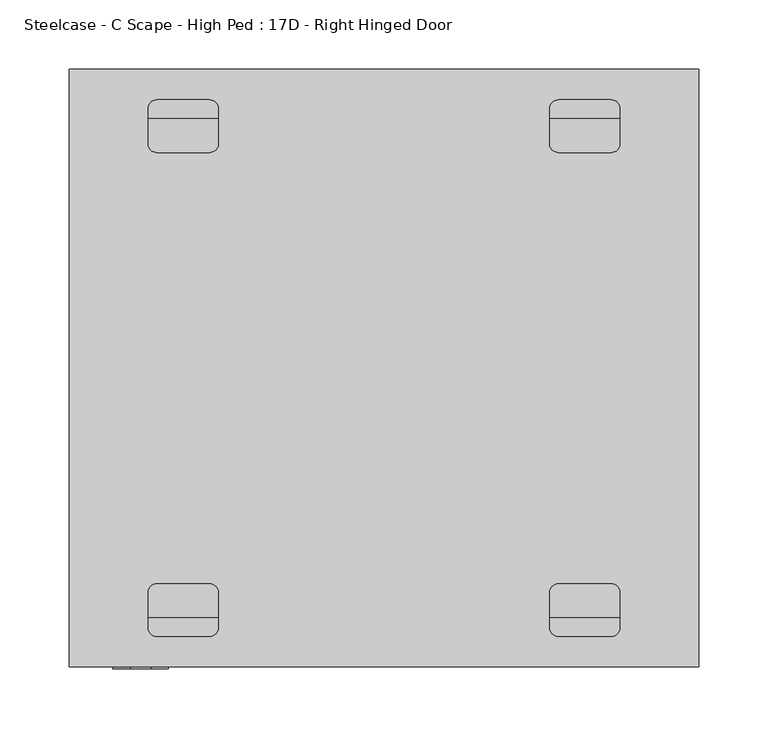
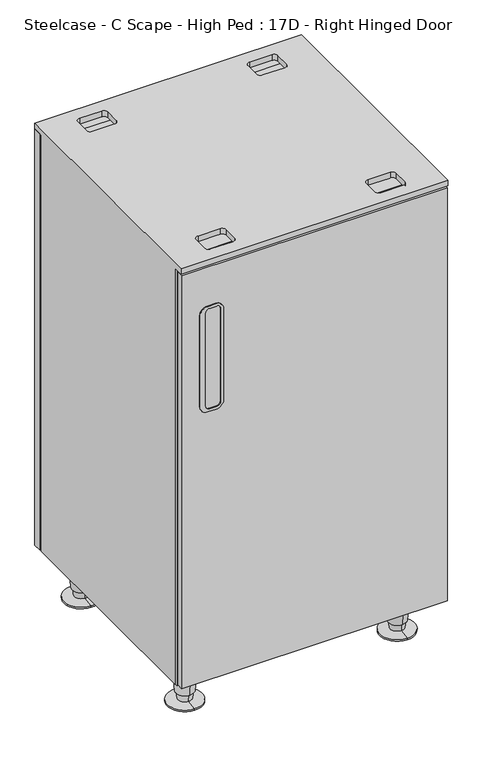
"""IFC4 building model written with IfcOpenShell, lengths in millimetres: furniture geometry, Steelcase - C Scape - High Ped : 17D - Right Hinged Door."""

from ifc_helpers import new_model, si_unit, point, frame, frame_2d, origin, place, context, project, spatial, polyline, circle_curve, trimmed, segment, composite_curve, outline, extrude, faceted_brep, source, transform, mapped, element, save
from ifc_brep_helpers import plane_surface, cylinder_surface, revolved_surface, advanced_brep


def steelcase_c_scape_high_ped_17d_right_hinged_door_e19e001e(model_context):
    return source(origin(), model_context, "Body", "SolidModel", [
        extrude(outline(polyline([(455.295, 0.0), (455.295, -13.8429225), (445.1174429, -13.8429225), (433.069569, -21.0820155), (21.5898062, -21.0820155), (9.5419322, -13.8429225), (-0.635, -13.8429225), (-0.635, 0.0), (455.295, 0.0)])), frame((0.0, 0.0, 76.2), z_axis=(0.0, 0.0, 1.0), x_axis=(1.0, 0.0, 0.0)), (0.0, 0.0, 1.0), 751.84),
        extrude(outline(composite_curve([segment(polyline([(577.2149855, 71.1199225), (742.3150339, 71.1199225)]), True, "CONTINUOUS"), segment(trimmed(circle_curve(frame_2d((742.3150339, 58.4199225)), 12.7), [point((742.3150339, 71.1199225))], [point((755.0150339, 58.4199225))], False, "CARTESIAN"), True, "CONTINUOUS"), segment(polyline([(755.0150339, 58.4199225), (755.0150339, 43.8153876)]), True, "CONTINUOUS"), segment(trimmed(circle_curve(frame_2d((742.3150339, 43.8153876)), 12.7), [point((755.0150339, 43.8153876))], [point((742.3150339, 31.1153876))], False, "CARTESIAN"), True, "CONTINUOUS"), segment(polyline([(742.3150339, 31.1153876), (577.2149855, 31.1153876)]), True, "CONTINUOUS"), segment(trimmed(circle_curve(frame_2d((577.2149855, 43.8153876)), 12.7), [point((577.2149855, 31.1153876))], [point((564.5149855, 43.8153876))], False, "CARTESIAN"), True, "CONTINUOUS"), segment(polyline([(564.5149855, 43.8153876), (564.5149855, 58.4199225)]), True, "CONTINUOUS"), segment(trimmed(circle_curve(frame_2d((577.2149855, 58.4199225)), 12.7), [point((564.5149855, 58.4199225))], [point((577.2149855, 71.1199225))], False, "CARTESIAN"), True, "CONTINUOUS")], self_intersect=False), holes=[composite_curve([segment(polyline([(575.690999, 40.8938605), (743.8390203, 40.8938605)]), True, "CONTINUOUS"), segment(trimmed(circle_curve(frame_2d((743.8390203, 47.2438605)), 6.35), [point((743.8390203, 40.8938605))], [point((750.1890203, 47.2438605))], True, "CARTESIAN"), True, "CONTINUOUS"), segment(polyline([(750.1890203, 47.2438605), (750.1890203, 59.9440543)]), True, "CONTINUOUS"), segment(trimmed(circle_curve(frame_2d((743.8390203, 59.9440543)), 6.35), [point((750.1890203, 59.9440543))], [point((743.8390203, 66.2940543))], True, "CARTESIAN"), True, "CONTINUOUS"), segment(polyline([(743.8390203, 66.2940543), (575.690999, 66.2940543)]), True, "CONTINUOUS"), segment(trimmed(circle_curve(frame_2d((575.690999, 59.9440543)), 6.35), [point((575.690999, 66.2940543))], [point((569.340999, 59.9440543))], True, "CARTESIAN"), True, "CONTINUOUS"), segment(polyline([(569.340999, 59.9440543), (569.340999, 47.2438605)]), True, "CONTINUOUS"), segment(trimmed(circle_curve(frame_2d((575.690999, 47.2438605)), 6.35), [point((569.340999, 47.2438605))], [point((575.690999, 40.8938605))], True, "CARTESIAN"), True, "CONTINUOUS")], self_intersect=False)]), frame((0.0, -434.340126, 0.0), z_axis=(0.0, 1.0, 0.0), x_axis=(0.0, 0.0, 1.0)), (0.0, 0.0, 1.0), 1.270126),
        extrude(outline(polyline([(0.3980765, -433.07), (0.3980765, -422.5289283), (454.5331473, -422.5289283), (454.5331473, -433.07), (0.3980765, -433.07)])), frame((0.0, 0.0, 79.374997), z_axis=(0.0, 0.0, 1.0), x_axis=(1.0, 0.0, 0.0)), (0.0, 0.0, 1.0), 745.4899885),
        extrude(outline(polyline([(11.5822775, -415.036), (11.5822775, -397.2560233), (21.5898062, -397.2560233), (21.5898062, -412.2419845), (9.5419322, -419.4810775), (0.3980765, -419.4810775), (0.3980765, -415.036), (11.5822775, -415.036)])), frame((0.0, 0.0, 76.2), z_axis=(0.0, 0.0, 1.0), x_axis=(1.0, 0.0, 0.0)), (0.0, 0.0, 1.0), 751.84),
        extrude(outline(polyline([(443.0776, -415.036), (454.2616522, -415.036), (454.2616522, -419.4810775), (445.1174429, -419.4810775), (433.07, -412.2422435), (433.07, -397.2560233), (443.0776, -397.2560233), (443.0776, -415.036)])), frame((0.0, 0.0, 76.2), z_axis=(0.0, 0.0, 1.0), x_axis=(1.0, 0.0, 0.0)), (0.0, 0.0, 1.0), 751.84),
        advanced_brep(
        [(408.94, -393.3610306, 0.0), (408.94, -334.1355906, 0.0), (408.94, -363.7483106, 0.0), (408.94, -393.3610306, 2.6912335), (408.94, -334.1355906, 2.6912335), (408.94, -375.7058983, 5.8043097), (408.94, -351.7907229, 5.8043097), (408.94, -376.4000755, 19.05), (408.94, -351.0965457, 19.05), (408.94, -379.1261713, 19.05), (408.94, -348.3704499, 19.05), (408.94, -383.1224886, 76.2), (408.94, -344.3741326, 76.2), (408.94, -363.7483106, 76.2)],
        [
            (0, 1, circle_curve(frame((408.94, -363.7483106, 0.0), z_axis=(0.0, 0.0, -1.0), x_axis=(0.0, 1.0, 0.0)), 29.61272)),
            (1, 2),
            (2, 0),
            (1, 0, circle_curve(frame((408.94, -363.7483106, 0.0), z_axis=(0.0, 0.0, -1.0), x_axis=(0.0, 1.0, 0.0)), 29.61272)),
            (3, 4, circle_curve(frame((408.94, -363.7483106, 2.6912335), z_axis=(0.0, 0.0, -1.0), x_axis=(0.0, 1.0, 0.0)), 29.61272)),
            (4, 1),
            (0, 3),
            (4, 3, circle_curve(frame((408.94, -363.7483106, 2.6912335), z_axis=(0.0, 0.0, -1.0), x_axis=(0.0, 1.0, 0.0)), 29.61272)),
            (5, 6, circle_curve(frame((408.94, -363.7483106, 5.8043097), z_axis=(0.0, 0.0, -1.0), x_axis=(0.0, 1.0, 0.0)), 11.9575877)),
            (6, 4),
            (3, 5),
            (6, 5, circle_curve(frame((408.94, -363.7483106, 5.8043097), z_axis=(0.0, 0.0, -1.0), x_axis=(0.0, 1.0, 0.0)), 11.9575877)),
            (7, 8, circle_curve(frame((408.94, -363.7483106, 19.05), z_axis=(0.0, 0.0, -1.0), x_axis=(0.0, 1.0, 0.0)), 12.6517649)),
            (8, 6),
            (5, 7),
            (8, 7, circle_curve(frame((408.94, -363.7483106, 19.05), z_axis=(0.0, 0.0, -1.0), x_axis=(0.0, 1.0, 0.0)), 12.6517649)),
            (9, 10, circle_curve(frame((408.94, -363.7483106, 19.05), z_axis=(0.0, 0.0, -1.0), x_axis=(0.0, 1.0, 0.0)), 15.3778607)),
            (10, 8),
            (7, 9),
            (10, 9, circle_curve(frame((408.94, -363.7483106, 19.05), z_axis=(0.0, 0.0, -1.0), x_axis=(0.0, 1.0, 0.0)), 15.3778607)),
            (11, 12, circle_curve(frame((408.94, -363.7483106, 76.2), z_axis=(0.0, 0.0, -1.0), x_axis=(0.0, 1.0, 0.0)), 19.374178)),
            (12, 10),
            (9, 11),
            (12, 11, circle_curve(frame((408.94, -363.7483106, 76.2), z_axis=(0.0, 0.0, -1.0), x_axis=(0.0, 1.0, 0.0)), 19.374178)),
            (13, 12),
            (11, 13),
        ],
        [
            plane_surface(frame((408.94, -363.7483106, 0.0), z_axis=(0.0, 0.0, -1.0), x_axis=(0.0, 1.0, 0.0))),
            cylinder_surface(frame((408.94, -363.7483106, -7.7422201), z_axis=(0.0, 0.0, 1.0), x_axis=(0.0, 1.0, 0.0)), 29.61272),
            revolved_surface(polyline([(408.94, -334.1355906, 2.6912335), (408.94, -351.7907229, 5.8043097)]), (408.94, -363.7483106, -7.7422201), (0.0, 0.0, 1.0)),
            revolved_surface(polyline([(408.94, -351.7907229, 5.8043097), (408.94, -351.0965457, 19.05)]), (408.94, -363.7483106, -7.7422201), (0.0, 0.0, 1.0)),
            plane_surface(frame((408.94, -363.7483106, 19.05), z_axis=(0.0, 0.0, -1.0), x_axis=(0.0, 1.0, 0.0))),
            revolved_surface(polyline([(408.94, -348.3704499, 19.05), (408.94, -344.3741326, 76.2)]), (408.94, -363.7483106, -7.7422201), (0.0, 0.0, 1.0)),
            plane_surface(frame((408.94, -363.7483106, 76.2), z_axis=(0.0, 0.0, 1.0), x_axis=(0.0, 1.0, 0.0))),
        ],
        [
            (0, [[1, 2, 3]]),
            (0, [[4, -3, -2]]),
            (1, [[5, 6, -1, 7]]),
            (1, [[8, -7, -4, -6]]),
            (2, [[9, 10, -5, 11]]),
            (2, [[12, -11, -8, -10]]),
            (3, [[13, 14, -9, 15]]),
            (3, [[16, -15, -12, -14]]),
            (4, [[17, 18, -13, 19]]),
            (4, [[20, -19, -16, -18]]),
            (5, [[21, 22, -17, 23]]),
            (5, [[24, -23, -20, -22]]),
            (6, [[25, -21, 26]]),
            (6, [[-26, -24, -25]]),
        ],
    ),
        advanced_brep(
        [(408.94, -37.8824339, 76.2), (408.94, -76.6307898, 76.2), (408.94, -57.2566119, 76.2), (408.94, -41.8787512, 19.05), (408.94, -72.6344725, 19.05), (408.94, -44.6048469, 19.05), (408.94, -69.9083768, 19.05), (408.94, -45.2990242, 5.8043097), (408.94, -69.2141995, 5.8043097), (408.94, -27.6438918, 2.6912335), (408.94, -86.8693319, 2.6912335), (408.94, -27.6438918, 0.0), (408.94, -86.8693319, 0.0), (408.94, -57.2566119, 0.0)],
        [
            (0, 1, circle_curve(frame((408.94, -57.2566119, 76.2), z_axis=(0.0, 0.0, 1.0), x_axis=(0.0, -1.0, 0.0)), 19.374178)),
            (1, 2),
            (2, 0),
            (1, 0, circle_curve(frame((408.94, -57.2566119, 76.2), z_axis=(0.0, 0.0, 1.0), x_axis=(0.0, -1.0, 0.0)), 19.374178)),
            (3, 4, circle_curve(frame((408.94, -57.2566119, 19.05), z_axis=(0.0, 0.0, 1.0), x_axis=(0.0, -1.0, 0.0)), 15.3778607)),
            (4, 1),
            (0, 3),
            (4, 3, circle_curve(frame((408.94, -57.2566119, 19.05), z_axis=(0.0, 0.0, 1.0), x_axis=(0.0, -1.0, 0.0)), 15.3778607)),
            (5, 6, circle_curve(frame((408.94, -57.2566119, 19.05), z_axis=(0.0, 0.0, 1.0), x_axis=(0.0, -1.0, 0.0)), 12.6517649)),
            (6, 4),
            (3, 5),
            (6, 5, circle_curve(frame((408.94, -57.2566119, 19.05), z_axis=(0.0, 0.0, 1.0), x_axis=(0.0, -1.0, 0.0)), 12.6517649)),
            (7, 8, circle_curve(frame((408.94, -57.2566119, 5.8043097), z_axis=(0.0, 0.0, 1.0), x_axis=(0.0, -1.0, 0.0)), 11.9575877)),
            (8, 6),
            (5, 7),
            (8, 7, circle_curve(frame((408.94, -57.2566119, 5.8043097), z_axis=(0.0, 0.0, 1.0), x_axis=(0.0, -1.0, 0.0)), 11.9575877)),
            (9, 10, circle_curve(frame((408.94, -57.2566119, 2.6912335), z_axis=(0.0, 0.0, 1.0), x_axis=(0.0, -1.0, 0.0)), 29.61272)),
            (10, 8),
            (7, 9),
            (10, 9, circle_curve(frame((408.94, -57.2566119, 2.6912335), z_axis=(0.0, 0.0, 1.0), x_axis=(0.0, -1.0, 0.0)), 29.61272)),
            (11, 12, circle_curve(frame((408.94, -57.2566119, 0.0), z_axis=(0.0, 0.0, 1.0), x_axis=(0.0, -1.0, 0.0)), 29.61272)),
            (12, 10),
            (9, 11),
            (12, 11, circle_curve(frame((408.94, -57.2566119, 0.0), z_axis=(0.0, 0.0, 1.0), x_axis=(0.0, -1.0, 0.0)), 29.61272)),
            (13, 12),
            (11, 13),
        ],
        [
            plane_surface(frame((408.94, -57.2566119, 76.2), z_axis=(0.0, 0.0, 1.0), x_axis=(0.0, -1.0, 0.0))),
            revolved_surface(polyline([(408.94, -76.6307898, 76.2), (408.94, -72.6344725, 19.05)]), (408.94, -57.2566119, -7.7422201), (0.0, 0.0, -1.0)),
            plane_surface(frame((408.94, -57.2566119, 19.05), z_axis=(0.0, 0.0, -1.0), x_axis=(0.0, -1.0, 0.0))),
            revolved_surface(polyline([(408.94, -69.9083768, 19.05), (408.94, -69.2141995, 5.8043097)]), (408.94, -57.2566119, -7.7422201), (0.0, 0.0, -1.0)),
            revolved_surface(polyline([(408.94, -69.2141995, 5.8043097), (408.94, -86.8693319, 2.6912335)]), (408.94, -57.2566119, -7.7422201), (0.0, 0.0, -1.0)),
            cylinder_surface(frame((408.94, -57.2566119, -7.7422201), z_axis=(0.0, 0.0, -1.0), x_axis=(0.0, -1.0, 0.0)), 29.61272),
            plane_surface(frame((408.94, -57.2566119, 0.0), z_axis=(0.0, 0.0, -1.0), x_axis=(0.0, -1.0, 0.0))),
        ],
        [
            (0, [[1, 2, 3]]),
            (0, [[4, -3, -2]]),
            (1, [[5, 6, -1, 7]]),
            (1, [[8, -7, -4, -6]]),
            (2, [[9, 10, -5, 11]]),
            (2, [[12, -11, -8, -10]]),
            (3, [[13, 14, -9, 15]]),
            (3, [[16, -15, -12, -14]]),
            (4, [[17, 18, -13, 19]]),
            (4, [[20, -19, -16, -18]]),
            (5, [[21, 22, -17, 23]]),
            (5, [[24, -23, -20, -22]]),
            (6, [[25, -21, 26]]),
            (6, [[-26, -24, -25]]),
        ],
    ),
        advanced_brep(
        [(45.7198062, -383.1224886, 76.2), (45.7198062, -344.3741326, 76.2), (45.7198062, -363.7483106, 76.2), (45.7198062, -379.1261713, 19.05), (45.7198062, -348.3704499, 19.05), (45.7198062, -376.4000755, 19.05), (45.7198062, -351.0965457, 19.05), (45.7198062, -375.7058983, 5.8043097), (45.7198062, -351.7907229, 5.8043097), (45.7198062, -393.3610306, 2.6912335), (45.7198062, -334.1355906, 2.6912335), (45.7198062, -393.3610306, 0.0), (45.7198062, -334.1355906, 0.0), (45.7198062, -363.7483106, 0.0)],
        [
            (0, 1, circle_curve(frame((45.7198062, -363.7483106, 76.2), z_axis=(0.0, 0.0, 1.0), x_axis=(0.0, 1.0, 0.0)), 19.374178)),
            (1, 2),
            (2, 0),
            (1, 0, circle_curve(frame((45.7198062, -363.7483106, 76.2), z_axis=(0.0, 0.0, 1.0), x_axis=(0.0, 1.0, 0.0)), 19.374178)),
            (3, 4, circle_curve(frame((45.7198062, -363.7483106, 19.05), z_axis=(0.0, 0.0, 1.0), x_axis=(0.0, 1.0, 0.0)), 15.3778607)),
            (4, 1),
            (0, 3),
            (4, 3, circle_curve(frame((45.7198062, -363.7483106, 19.05), z_axis=(0.0, 0.0, 1.0), x_axis=(0.0, 1.0, 0.0)), 15.3778607)),
            (5, 6, circle_curve(frame((45.7198062, -363.7483106, 19.05), z_axis=(0.0, 0.0, 1.0), x_axis=(0.0, 1.0, 0.0)), 12.6517649)),
            (6, 4),
            (3, 5),
            (6, 5, circle_curve(frame((45.7198062, -363.7483106, 19.05), z_axis=(0.0, 0.0, 1.0), x_axis=(0.0, 1.0, 0.0)), 12.6517649)),
            (7, 8, circle_curve(frame((45.7198062, -363.7483106, 5.8043097), z_axis=(0.0, 0.0, 1.0), x_axis=(0.0, 1.0, 0.0)), 11.9575877)),
            (8, 6),
            (5, 7),
            (8, 7, circle_curve(frame((45.7198062, -363.7483106, 5.8043097), z_axis=(0.0, 0.0, 1.0), x_axis=(0.0, 1.0, 0.0)), 11.9575877)),
            (9, 10, circle_curve(frame((45.7198062, -363.7483106, 2.6912335), z_axis=(0.0, 0.0, 1.0), x_axis=(0.0, 1.0, 0.0)), 29.61272)),
            (10, 8),
            (7, 9),
            (10, 9, circle_curve(frame((45.7198062, -363.7483106, 2.6912335), z_axis=(0.0, 0.0, 1.0), x_axis=(0.0, 1.0, 0.0)), 29.61272)),
            (11, 12, circle_curve(frame((45.7198062, -363.7483106, 0.0), z_axis=(0.0, 0.0, 1.0), x_axis=(0.0, 1.0, 0.0)), 29.61272)),
            (12, 10),
            (9, 11),
            (12, 11, circle_curve(frame((45.7198062, -363.7483106, 0.0), z_axis=(0.0, 0.0, 1.0), x_axis=(0.0, 1.0, 0.0)), 29.61272)),
            (13, 12),
            (11, 13),
        ],
        [
            plane_surface(frame((45.7198062, -363.7483106, 76.2), z_axis=(0.0, 0.0, 1.0), x_axis=(0.0, 1.0, 0.0))),
            revolved_surface(polyline([(45.7198062, -344.3741326, 76.2), (45.7198062, -348.3704499, 19.05)]), (45.7198062, -363.7483106, -7.7422201), (0.0, 0.0, -1.0)),
            plane_surface(frame((45.7198062, -363.7483106, 19.05), z_axis=(0.0, 0.0, -1.0), x_axis=(0.0, 1.0, 0.0))),
            revolved_surface(polyline([(45.7198062, -351.0965457, 19.05), (45.7198062, -351.7907229, 5.8043097)]), (45.7198062, -363.7483106, -7.7422201), (0.0, 0.0, -1.0)),
            revolved_surface(polyline([(45.7198062, -351.7907229, 5.8043097), (45.7198062, -334.1355906, 2.6912335)]), (45.7198062, -363.7483106, -7.7422201), (0.0, 0.0, -1.0)),
            cylinder_surface(frame((45.7198062, -363.7483106, -7.7422201), z_axis=(0.0, 0.0, -1.0), x_axis=(0.0, 1.0, 0.0)), 29.61272),
            plane_surface(frame((45.7198062, -363.7483106, 0.0), z_axis=(0.0, 0.0, -1.0), x_axis=(0.0, 1.0, 0.0))),
        ],
        [
            (0, [[1, 2, 3]]),
            (0, [[4, -3, -2]]),
            (1, [[5, 6, -1, 7]]),
            (1, [[8, -7, -4, -6]]),
            (2, [[9, 10, -5, 11]]),
            (2, [[12, -11, -8, -10]]),
            (3, [[13, 14, -9, 15]]),
            (3, [[16, -15, -12, -14]]),
            (4, [[17, 18, -13, 19]]),
            (4, [[20, -19, -16, -18]]),
            (5, [[21, 22, -17, 23]]),
            (5, [[24, -23, -20, -22]]),
            (6, [[25, -21, 26]]),
            (6, [[-26, -24, -25]]),
        ],
    ),
        advanced_brep(
        [(45.7198062, -27.6438918, 0.0), (45.7198062, -86.8693319, 0.0), (45.7198062, -57.2566119, 0.0), (45.7198062, -27.6438918, 2.6912335), (45.7198062, -86.8693319, 2.6912335), (45.7198062, -45.2990242, 5.8043097), (45.7198062, -69.2141995, 5.8043097), (45.7198062, -44.6048469, 19.05), (45.7198062, -69.9083768, 19.05), (45.7198062, -41.8787512, 19.05), (45.7198062, -72.6344725, 19.05), (45.7198062, -37.8824339, 76.2), (45.7198062, -76.6307898, 76.2), (45.7198062, -57.2566119, 76.2)],
        [
            (0, 1, circle_curve(frame((45.7198062, -57.2566119, 0.0), z_axis=(0.0, 0.0, -1.0), x_axis=(0.0, -1.0, 0.0)), 29.61272)),
            (1, 2),
            (2, 0),
            (1, 0, circle_curve(frame((45.7198062, -57.2566119, 0.0), z_axis=(0.0, 0.0, -1.0), x_axis=(0.0, -1.0, 0.0)), 29.61272)),
            (3, 4, circle_curve(frame((45.7198062, -57.2566119, 2.6912335), z_axis=(0.0, 0.0, -1.0), x_axis=(0.0, -1.0, 0.0)), 29.61272)),
            (4, 1),
            (0, 3),
            (4, 3, circle_curve(frame((45.7198062, -57.2566119, 2.6912335), z_axis=(0.0, 0.0, -1.0), x_axis=(0.0, -1.0, 0.0)), 29.61272)),
            (5, 6, circle_curve(frame((45.7198062, -57.2566119, 5.8043097), z_axis=(0.0, 0.0, -1.0), x_axis=(0.0, -1.0, 0.0)), 11.9575877)),
            (6, 4),
            (3, 5),
            (6, 5, circle_curve(frame((45.7198062, -57.2566119, 5.8043097), z_axis=(0.0, 0.0, -1.0), x_axis=(0.0, -1.0, 0.0)), 11.9575877)),
            (7, 8, circle_curve(frame((45.7198062, -57.2566119, 19.05), z_axis=(0.0, 0.0, -1.0), x_axis=(0.0, -1.0, 0.0)), 12.6517649)),
            (8, 6),
            (5, 7),
            (8, 7, circle_curve(frame((45.7198062, -57.2566119, 19.05), z_axis=(0.0, 0.0, -1.0), x_axis=(0.0, -1.0, 0.0)), 12.6517649)),
            (9, 10, circle_curve(frame((45.7198062, -57.2566119, 19.05), z_axis=(0.0, 0.0, -1.0), x_axis=(0.0, -1.0, 0.0)), 15.3778607)),
            (10, 8),
            (7, 9),
            (10, 9, circle_curve(frame((45.7198062, -57.2566119, 19.05), z_axis=(0.0, 0.0, -1.0), x_axis=(0.0, -1.0, 0.0)), 15.3778607)),
            (11, 12, circle_curve(frame((45.7198062, -57.2566119, 76.2), z_axis=(0.0, 0.0, -1.0), x_axis=(0.0, -1.0, 0.0)), 19.374178)),
            (12, 10),
            (9, 11),
            (12, 11, circle_curve(frame((45.7198062, -57.2566119, 76.2), z_axis=(0.0, 0.0, -1.0), x_axis=(0.0, -1.0, 0.0)), 19.374178)),
            (13, 12),
            (11, 13),
        ],
        [
            plane_surface(frame((45.7198062, -57.2566119, 0.0), z_axis=(0.0, 0.0, -1.0), x_axis=(0.0, -1.0, 0.0))),
            cylinder_surface(frame((45.7198062, -57.2566119, -7.7422201), z_axis=(0.0, 0.0, 1.0), x_axis=(0.0, -1.0, 0.0)), 29.61272),
            revolved_surface(polyline([(45.7198062, -86.8693319, 2.6912335), (45.7198062, -69.2141995, 5.8043097)]), (45.7198062, -57.2566119, -7.7422201), (0.0, 0.0, 1.0)),
            revolved_surface(polyline([(45.7198062, -69.2141995, 5.8043097), (45.7198062, -69.9083768, 19.05)]), (45.7198062, -57.2566119, -7.7422201), (0.0, 0.0, 1.0)),
            plane_surface(frame((45.7198062, -57.2566119, 19.05), z_axis=(0.0, 0.0, -1.0), x_axis=(0.0, -1.0, 0.0))),
            revolved_surface(polyline([(45.7198062, -72.6344725, 19.05), (45.7198062, -76.6307898, 76.2)]), (45.7198062, -57.2566119, -7.7422201), (0.0, 0.0, 1.0)),
            plane_surface(frame((45.7198062, -57.2566119, 76.2), z_axis=(0.0, 0.0, 1.0), x_axis=(0.0, -1.0, 0.0))),
        ],
        [
            (0, [[1, 2, 3]]),
            (0, [[4, -3, -2]]),
            (1, [[5, 6, -1, 7]]),
            (1, [[8, -7, -4, -6]]),
            (2, [[9, 10, -5, 11]]),
            (2, [[12, -11, -8, -10]]),
            (3, [[13, 14, -9, 15]]),
            (3, [[16, -15, -12, -14]]),
            (4, [[17, 18, -13, 19]]),
            (4, [[20, -19, -16, -18]]),
            (5, [[21, 22, -17, 23]]),
            (5, [[24, -23, -20, -22]]),
            (6, [[25, -21, 26]]),
            (6, [[-26, -24, -25]]),
        ],
    ),
        advanced_brep(
        [(-0.635, -433.07, 838.2), (-0.635, 0.0, 838.2), (-0.635, 0.0, 828.04), (-0.635, -18.288, 828.04), (-0.635, -18.288, 76.2), (-0.635, -415.036, 76.2), (-0.635, -415.036, 828.04), (-0.635, -433.07, 828.04), (455.295, -433.07, 838.2), (455.295, -433.07, 828.04), (455.295, -415.036, 828.04), (455.295, -415.036, 76.2), (455.295, -18.288, 76.2), (455.295, -18.288, 828.04), (455.295, 0.0, 828.04), (455.295, 0.0, 838.2), (21.5898062, -397.2560233, 92.7100024), (433.0701938, -397.2560233, 92.7100024), (433.0701938, -36.0679767, 92.7100024), (21.5898062, -36.0679767, 92.7100024), (443.0777225, -36.0679767, 828.04), (443.0777225, -36.0679767, 76.2), (11.5822775, -36.0679767, 76.2), (11.5822775, -36.0679767, 828.04), (56.5151938, -36.0679767, 828.04), (107.3148062, -36.0679767, 828.04), (347.3449225, -36.0679767, 828.04), (398.1445349, -36.0679767, 828.04), (433.0701938, -36.0679767, 441.604404), (21.5898062, -36.0679767, 441.604404), (21.5898062, -36.0679767, 457.2), (433.0701938, -36.0679767, 457.2), (433.0701938, -36.0679767, 811.5299709), (21.5898062, -36.0679767, 811.5299709), (11.5822775, -18.288, 76.2), (443.0777225, -18.288, 76.2), (443.0777225, -415.036, 76.2), (443.0777225, -397.2560233, 76.2), (11.5822775, -397.2560233, 76.2), (11.5822775, -415.036, 76.2), (347.3449225, -397.2560233, 828.04), (107.3148062, -397.2560233, 828.04), (56.5151938, -397.2560233, 828.04), (11.5822775, -397.2560233, 828.04), (443.0777225, -397.2560233, 828.04), (398.1445349, -397.2560233, 828.04), (21.5898062, -397.2560233, 441.604404), (433.0701938, -397.2560233, 441.604404), (433.0701938, -397.2560233, 457.2), (21.5898062, -397.2560233, 457.2), (21.5898062, -397.2560233, 811.5299709), (433.0701938, -397.2560233, 811.5299709), (100.9648062, -410.9720465, 838.2), (62.8651938, -410.9720465, 838.2), (56.5151938, -404.6212714, 838.2), (56.5151938, -379.2220465, 838.2), (62.8651938, -372.8720465, 838.2), (100.9648062, -372.8720465, 838.2), (107.3148062, -379.2220465, 838.2), (107.3148062, -404.6212714, 838.2), (353.694535, -410.9712714, 838.2), (347.3449225, -404.6212714, 838.2), (347.3449225, -379.2220465, 838.2), (353.6949225, -372.8720465, 838.2), (391.7945349, -372.8720465, 838.2), (398.1445349, -379.2220465, 838.2), (398.1445349, -404.6212714, 838.2), (391.7945349, -410.9712714, 838.2), (107.3148062, -54.1015117, 838.2), (100.9648062, -60.4515117, 838.2), (62.8651938, -60.4522868, 838.2), (56.5151938, -54.1015117, 838.2), (56.5151938, -28.7022868, 838.2), (62.8651938, -22.3522868, 838.2), (100.9648062, -22.3522868, 838.2), (107.3148062, -28.7022868, 838.2), (391.7945349, -60.4522868, 838.2), (353.694535, -60.4522868, 838.2), (347.3449225, -54.1015117, 838.2), (347.3449225, -28.7022868, 838.2), (353.6949225, -22.3522868, 838.2), (391.7945349, -22.3522868, 838.2), (398.1445349, -28.7022868, 838.2), (398.1445349, -54.1015117, 838.2), (443.0777225, -18.288, 828.04), (398.1445349, -28.7022868, 828.04), (391.7945349, -22.3522868, 828.04), (353.6949225, -22.3522868, 828.04), (347.3449225, -28.7022868, 828.04), (107.3148062, -28.7022868, 828.04), (100.9648062, -22.3522868, 828.04), (62.8651938, -22.3522868, 828.04), (56.5151938, -28.7022868, 828.04), (11.5822775, -18.288, 828.04), (11.5822775, -415.036, 828.04), (56.5151938, -404.6212714, 828.04), (62.8651938, -410.9712714, 828.04), (100.9648062, -410.9720465, 828.04), (107.3148062, -404.6212714, 828.04), (347.3449225, -404.6212714, 828.04), (353.694535, -410.9712714, 828.04), (391.7945349, -410.9720465, 828.04), (398.1445349, -404.6212714, 828.04), (443.0777225, -415.036, 828.04), (107.3148062, -379.2220465, 828.04), (100.9648062, -372.8720465, 828.04), (62.8651938, -372.8720465, 828.04), (56.5151938, -379.2220465, 828.04), (398.1445349, -379.2220465, 828.04), (391.7945349, -372.8720465, 828.04), (353.6949225, -372.8720465, 828.04), (347.3449225, -379.2220465, 828.04), (100.9648062, -60.4515117, 828.04), (107.3148062, -54.1015117, 828.04), (56.5151938, -54.1015117, 828.04), (62.8651938, -60.4515117, 828.04), (353.6945349, -60.4522868, 828.04), (391.7945349, -60.4522868, 828.04), (398.1445349, -54.1015117, 828.04), (347.3449225, -54.1015117, 828.04)],
        [
            (0, 1),
            (1, 2),
            (2, 3),
            (3, 4),
            (4, 5),
            (5, 6),
            (6, 7),
            (7, 0),
            (8, 9),
            (9, 10),
            (10, 11),
            (11, 12),
            (12, 13),
            (13, 14),
            (14, 15),
            (15, 8),
            (16, 17),
            (17, 18),
            (18, 19),
            (19, 16),
            (20, 21),
            (21, 22),
            (22, 23),
            (23, 24),
            (24, 25),
            (25, 26),
            (26, 27),
            (27, 20),
            (18, 28),
            (28, 29),
            (29, 19),
            (30, 31),
            (31, 32),
            (32, 33),
            (33, 30),
            (34, 22),
            (21, 35),
            (35, 12),
            (11, 36),
            (36, 37),
            (37, 38),
            (38, 39),
            (39, 5),
            (4, 34),
            (40, 41),
            (41, 42),
            (42, 43),
            (43, 38),
            (37, 44),
            (44, 45),
            (45, 40),
            (16, 46),
            (46, 47),
            (47, 17),
            (48, 49),
            (49, 50),
            (50, 51),
            (51, 48),
            (48, 31),
            (30, 49),
            (28, 47),
            (46, 29),
            (0, 8),
            (15, 1),
            (52, 53),
            (53, 54, circle_curve(frame((62.8651938, -404.6212714, 838.2), z_axis=(0.0, 0.0, -1.0), x_axis=(0.0, -1.0, 0.0)), 6.35)),
            (54, 55),
            (55, 56, circle_curve(frame((62.8651938, -379.2220465, 838.2), z_axis=(0.0, 0.0, -1.0), x_axis=(0.0, -1.0, 0.0)), 6.35)),
            (56, 57),
            (57, 58, circle_curve(frame((100.9648062, -379.2220465, 838.2), z_axis=(0.0, 0.0, -1.0), x_axis=(0.0, -1.0, 0.0)), 6.35)),
            (58, 59),
            (59, 52, circle_curve(frame((100.9648062, -404.6212714, 838.2), z_axis=(0.0, 0.0, -1.0), x_axis=(0.0, -1.0, 0.0)), 6.35)),
            (60, 61, circle_curve(frame((353.6949225, -404.6212714, 838.2), z_axis=(0.0, 0.0, -1.0), x_axis=(0.0, -1.0, 0.0)), 6.35)),
            (61, 62),
            (62, 63, circle_curve(frame((353.6949225, -379.2220465, 838.2), z_axis=(0.0, 0.0, -1.0), x_axis=(0.0, -1.0, 0.0)), 6.35)),
            (63, 64),
            (64, 65, circle_curve(frame((391.7945349, -379.2220465, 838.2), z_axis=(0.0, 0.0, -1.0), x_axis=(0.0, -1.0, 0.0)), 6.35)),
            (65, 66),
            (66, 67, circle_curve(frame((391.7945349, -404.6212714, 838.2), z_axis=(0.0, 0.0, -1.0), x_axis=(0.0, -1.0, 0.0)), 6.35)),
            (67, 60),
            (68, 69, circle_curve(frame((100.9648062, -54.1015117, 838.2), z_axis=(0.0, 0.0, -1.0), x_axis=(0.0, 1.0, 0.0)), 6.35)),
            (69, 70),
            (70, 71, circle_curve(frame((62.8651938, -54.1015117, 838.2), z_axis=(0.0, 0.0, -1.0), x_axis=(0.0, 1.0, 0.0)), 6.35)),
            (71, 72),
            (72, 73, circle_curve(frame((62.8651938, -28.7022868, 838.2), z_axis=(0.0, 0.0, -1.0), x_axis=(0.0, 1.0, 0.0)), 6.35)),
            (73, 74),
            (74, 75, circle_curve(frame((100.9648062, -28.7022868, 838.2), z_axis=(0.0, 0.0, -1.0), x_axis=(0.0, 1.0, 0.0)), 6.35)),
            (75, 68),
            (76, 77),
            (77, 78, circle_curve(frame((353.6949225, -54.1015117, 838.2), z_axis=(0.0, 0.0, -1.0), x_axis=(0.0, 1.0, 0.0)), 6.35)),
            (78, 79),
            (79, 80, circle_curve(frame((353.6949225, -28.7022868, 838.2), z_axis=(0.0, 0.0, -1.0), x_axis=(0.0, 1.0, 0.0)), 6.35)),
            (80, 81),
            (81, 82, circle_curve(frame((391.7945349, -28.7022868, 838.2), z_axis=(0.0, 0.0, -1.0), x_axis=(0.0, 1.0, 0.0)), 6.35)),
            (82, 83),
            (83, 76, circle_curve(frame((391.7945349, -54.1015117, 838.2), z_axis=(0.0, 0.0, -1.0), x_axis=(0.0, 1.0, 0.0)), 6.35)),
            (14, 2),
            (13, 84),
            (84, 20),
            (27, 85),
            (85, 86, circle_curve(frame((391.7945349, -28.7022868, 828.04), z_axis=(0.0, 0.0, 1.0), x_axis=(0.0, 1.0, 0.0)), 6.35)),
            (86, 87),
            (87, 88, circle_curve(frame((353.6949225, -28.7022868, 828.04), z_axis=(0.0, 0.0, 1.0), x_axis=(0.0, 1.0, 0.0)), 6.35)),
            (88, 26),
            (25, 89),
            (89, 90, circle_curve(frame((100.9648062, -28.7022868, 828.04), z_axis=(0.0, 0.0, 1.0), x_axis=(0.0, 1.0, 0.0)), 6.35)),
            (90, 91),
            (91, 92, circle_curve(frame((62.8651938, -28.7022868, 828.04), z_axis=(0.0, 0.0, 1.0), x_axis=(0.0, 1.0, 0.0)), 6.35)),
            (92, 24),
            (23, 93),
            (93, 3),
            (32, 51),
            (50, 33),
            (9, 7),
            (6, 94),
            (94, 43),
            (42, 95),
            (95, 96, circle_curve(frame((62.8651938, -404.6212714, 828.04), z_axis=(0.0, 0.0, 1.0), x_axis=(0.0, -1.0, 0.0)), 6.35)),
            (96, 97),
            (97, 98, circle_curve(frame((100.9648062, -404.6212714, 828.04), z_axis=(0.0, 0.0, 1.0), x_axis=(0.0, -1.0, 0.0)), 6.35)),
            (98, 41),
            (40, 99),
            (99, 100, circle_curve(frame((353.6949225, -404.6212714, 828.04), z_axis=(0.0, 0.0, 1.0), x_axis=(0.0, -1.0, 0.0)), 6.35)),
            (100, 101),
            (101, 102, circle_curve(frame((391.7945349, -404.6212714, 828.04), z_axis=(0.0, 0.0, 1.0), x_axis=(0.0, -1.0, 0.0)), 6.35)),
            (102, 45),
            (44, 103),
            (103, 10),
            (104, 105, circle_curve(frame((100.9648062, -379.2220465, 828.04), z_axis=(0.0, 0.0, 1.0), x_axis=(0.0, -1.0, 0.0)), 6.35)),
            (105, 106),
            (106, 107, circle_curve(frame((62.8651938, -379.2220465, 828.04), z_axis=(0.0, 0.0, 1.0), x_axis=(0.0, -1.0, 0.0)), 6.35)),
            (107, 42),
            (41, 104),
            (108, 109, circle_curve(frame((391.7945349, -379.2220465, 828.04), z_axis=(0.0, 0.0, 1.0), x_axis=(0.0, -1.0, 0.0)), 6.35)),
            (109, 110),
            (110, 111, circle_curve(frame((353.6949225, -379.2220465, 828.04), z_axis=(0.0, 0.0, 1.0), x_axis=(0.0, -1.0, 0.0)), 6.35)),
            (111, 40),
            (45, 108),
            (96, 53),
            (52, 97),
            (95, 54),
            (107, 55),
            (106, 56),
            (105, 57),
            (104, 58),
            (98, 59),
            (99, 61),
            (60, 100),
            (111, 62),
            (110, 63),
            (109, 64),
            (108, 65),
            (102, 66),
            (101, 67),
            (93, 34),
            (39, 94),
            (84, 35),
            (36, 103),
            (112, 113, circle_curve(frame((100.9648062, -54.1015117, 828.04), z_axis=(0.0, 0.0, 1.0), x_axis=(0.0, 1.0, 0.0)), 6.35)),
            (113, 25),
            (24, 114),
            (114, 115, circle_curve(frame((62.8651938, -54.1015117, 828.04), z_axis=(0.0, 0.0, 1.0), x_axis=(0.0, 1.0, 0.0)), 6.35)),
            (115, 112),
            (116, 117),
            (117, 118, circle_curve(frame((391.7945349, -54.1015117, 828.04), z_axis=(0.0, 0.0, 1.0), x_axis=(0.0, 1.0, 0.0)), 6.35)),
            (118, 27),
            (26, 119),
            (119, 116, circle_curve(frame((353.6949225, -54.1015117, 828.04), z_axis=(0.0, 0.0, 1.0), x_axis=(0.0, 1.0, 0.0)), 6.35)),
            (115, 70),
            (69, 112),
            (114, 71),
            (92, 72),
            (91, 73),
            (90, 74),
            (89, 75),
            (113, 68),
            (119, 78),
            (77, 116),
            (88, 79),
            (87, 80),
            (86, 81),
            (85, 82),
            (118, 83),
            (117, 76),
        ],
        [
            plane_surface(frame((-0.635, -36.0679767, 92.7100024), z_axis=(-1.0, 0.0, 0.0), x_axis=(0.0, 1.0, 0.0))),
            plane_surface(frame((455.295, -36.0679767, 92.7100024), z_axis=(1.0, 0.0, 0.0), x_axis=(0.0, -1.0, 0.0))),
            plane_surface(frame((-0.635, -397.2560233, 92.7100024), z_axis=(0.0, 0.0, 1.0), x_axis=(1.0, 0.0, 0.0))),
            plane_surface(frame((-0.635, -36.0679767, 92.7100024), z_axis=(0.0, 1.0, 0.0), x_axis=(1.0, 0.0, 0.0))),
            plane_surface(frame((-0.635, -36.0679767, 76.2), z_axis=(0.0, 0.0, -1.0), x_axis=(1.0, 0.0, 0.0))),
            plane_surface(frame((-0.635, -397.2560233, 76.2), z_axis=(0.0, -1.0, 0.0), x_axis=(1.0, 0.0, 0.0))),
            plane_surface(frame((-0.635, -397.2560233, 457.2), z_axis=(0.0, 0.0, 1.0), x_axis=(1.0, 0.0, 0.0))),
            plane_surface(frame((-0.635, -36.0679767, 441.604404), z_axis=(0.0, 0.0, -1.0), x_axis=(1.0, 0.0, 0.0))),
            plane_surface(frame((-0.635, -433.07, 838.2), z_axis=(0.0, 0.0, 1.0), x_axis=(1.0, 0.0, 0.0))),
            plane_surface(frame((-0.635, 0.0, 838.2), z_axis=(0.0, 1.0, 0.0), x_axis=(1.0, 0.0, 0.0))),
            plane_surface(frame((-0.635, 0.0, 828.04), z_axis=(0.0, 0.0, -1.0), x_axis=(1.0, 0.0, 0.0))),
            plane_surface(frame((-0.635, -36.0679767, 811.5299709), z_axis=(0.0, 0.0, -1.0), x_axis=(1.0, 0.0, 0.0))),
            plane_surface(frame((-0.635, -397.2560233, 828.04), z_axis=(0.0, 0.0, -1.0), x_axis=(1.0, 0.0, 0.0))),
            plane_surface(frame((-0.635, -433.07, 828.04), z_axis=(0.0, -1.0, 0.0), x_axis=(1.0, 0.0, 0.0))),
            plane_surface(frame((62.8651938, -410.9720465, 828.04), z_axis=(0.0, 0.0, 1.0), x_axis=(-1.0, 0.0, 0.0))),
            plane_surface(frame((100.9651938, -410.9720465, 828.04), z_axis=(0.0, 1.0, 0.0), x_axis=(0.0, 0.0, 1.0))),
            revolved_surface(polyline([(62.8651938, -410.97127140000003, 828.04), (62.8651938, -410.97127140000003, 838.2)]), (62.8651938, -404.6212714, 838.2), (0.0, 0.0, -1.0)),
            plane_surface(frame((56.5151938, -404.6212714, 828.04), z_axis=(1.0, 0.0, 0.0), x_axis=(0.0, 0.0, 1.0))),
            revolved_surface(polyline([(62.8651938, -385.5720465, 828.04), (62.8651938, -385.5720465, 838.2)]), (62.8651938, -379.2220465, 838.2), (0.0, 0.0, -1.0)),
            plane_surface(frame((62.8651938, -372.8720465, 828.04), z_axis=(0.0, -1.0, 0.0), x_axis=(0.0, 0.0, 1.0))),
            revolved_surface(polyline([(100.9648062, -385.5720465, 828.04), (100.9648062, -385.5720465, 838.2)]), (100.9648062, -379.2220465, 838.2), (0.0, 0.0, -1.0)),
            plane_surface(frame((107.3148062, -379.2220465, 828.04), z_axis=(-1.0, 0.0, 0.0), x_axis=(0.0, 0.0, 1.0))),
            revolved_surface(polyline([(100.9648062, -410.97127140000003, 828.04), (100.9648062, -410.97127140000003, 838.2)]), (100.9648062, -404.6212714, 838.2), (0.0, 0.0, -1.0)),
            revolved_surface(polyline([(353.6949225, -410.97127140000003, 828.04), (353.6949225, -410.97127140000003, 838.2)]), (353.6949225, -404.6212714, 0.0), (0.0, 0.0, -1.0)),
            plane_surface(frame((347.3449225, -404.6212714, 828.04), z_axis=(1.0, 0.0, 0.0), x_axis=(0.0, 0.0, 1.0))),
            revolved_surface(polyline([(353.6949225, -385.5720465, 828.04), (353.6949225, -385.5720465, 838.2)]), (353.6949225, -379.2220465, 0.0), (0.0, 0.0, -1.0)),
            plane_surface(frame((353.6949225, -372.8720465, 828.04), z_axis=(0.0, -1.0, 0.0), x_axis=(0.0, 0.0, 1.0))),
            revolved_surface(polyline([(391.7945349, -385.5720465, 828.04), (391.7945349, -385.5720465, 838.2)]), (391.7945349, -379.2220465, 0.0), (0.0, 0.0, -1.0)),
            plane_surface(frame((398.1445349, -379.2220465, 828.04), z_axis=(-1.0, 0.0, 0.0), x_axis=(0.0, 0.0, 1.0))),
            revolved_surface(polyline([(391.7945349, -410.97127140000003, 828.04), (391.7945349, -410.97127140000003, 838.2)]), (391.7945349, -404.6212714, 0.0), (0.0, 0.0, -1.0)),
            plane_surface(frame((391.7945349, -410.9720465, 828.04), z_axis=(0.0, 1.0, 0.0), x_axis=(0.0, 0.0, 1.0))),
            plane_surface(frame((11.5822775, -18.288, 828.04), z_axis=(0.0, 1.0, 0.0), x_axis=(0.0, 0.0, -1.0))),
            plane_surface(frame((-0.635, -415.036, 828.04), z_axis=(0.0, -1.0, 0.0), x_axis=(0.0, 0.0, -1.0))),
            plane_surface(frame((11.5822775, -415.036, 828.04), z_axis=(1.0, 0.0, 0.0), x_axis=(0.0, 0.0, -1.0))),
            plane_surface(frame((21.5898062, -397.2560233, 828.04), z_axis=(1.0, 0.0, 0.0), x_axis=(0.0, 0.0, -1.0))),
            plane_surface(frame((11.5822775, -36.0679767, 828.04), z_axis=(1.0, 0.0, 0.0), x_axis=(0.0, 0.0, -1.0))),
            plane_surface(frame((443.0777225, -18.288, 828.04), z_axis=(-1.0, 0.0, 0.0), x_axis=(0.0, 0.0, -1.0))),
            plane_surface(frame((433.0701938, -36.0679767, 828.04), z_axis=(-1.0, 0.0, 0.0), x_axis=(0.0, 0.0, -1.0))),
            plane_surface(frame((443.0777225, -397.2560233, 828.04), z_axis=(-1.0, 0.0, 0.0), x_axis=(0.0, 0.0, -1.0))),
            plane_surface(frame((443.0777225, -415.036, 828.04), z_axis=(0.0, -1.0, 0.0), x_axis=(0.0, 0.0, -1.0))),
            plane_surface(frame((455.295, -18.288, 828.04), z_axis=(0.0, 1.0, 0.0), x_axis=(0.0, 0.0, -1.0))),
            plane_surface(frame((62.8651938, -60.4522868, 828.04), z_axis=(0.0, 0.0, 1.0), x_axis=(-1.0, 0.0, 0.0))),
            plane_surface(frame((100.9651938, -60.4522868, 828.04), z_axis=(0.0, 1.0, 0.0), x_axis=(0.0, 0.0, 1.0))),
            revolved_surface(polyline([(62.8651938, -47.7515117, 828.04), (62.8651938, -47.7515117, 838.2)]), (62.8651938, -54.1015117, 838.2), (0.0, 0.0, -1.0)),
            plane_surface(frame((56.5151938, -54.1015117, 828.04), z_axis=(1.0, 0.0, 0.0), x_axis=(0.0, 0.0, 1.0))),
            revolved_surface(polyline([(62.8651938, -22.3522868, 828.04), (62.8651938, -22.3522868, 838.2)]), (62.8651938, -28.7022868, 838.2), (0.0, 0.0, -1.0)),
            plane_surface(frame((62.8651938, -22.3522868, 828.04), z_axis=(0.0, -1.0, 0.0), x_axis=(0.0, 0.0, 1.0))),
            revolved_surface(polyline([(100.9648062, -22.3522868, 828.04), (100.9648062, -22.3522868, 838.2)]), (100.9648062, -28.7022868, 838.2), (0.0, 0.0, -1.0)),
            plane_surface(frame((107.3148062, -28.7022868, 828.04), z_axis=(-1.0, 0.0, 0.0), x_axis=(0.0, 0.0, 1.0))),
            revolved_surface(polyline([(100.9648062, -47.7515117, 828.04), (100.9648062, -47.7515117, 838.2)]), (100.9648062, -54.1015117, 838.2), (0.0, 0.0, -1.0)),
            revolved_surface(polyline([(353.6949225, -47.7515117, 828.04), (353.6949225, -47.7515117, 838.2)]), (353.6949225, -54.1015117, 0.0), (0.0, 0.0, -1.0)),
            plane_surface(frame((347.3449225, -54.1015117, 828.04), z_axis=(1.0, 0.0, 0.0), x_axis=(0.0, 0.0, 1.0))),
            revolved_surface(polyline([(353.6949225, -22.3522868, 828.04), (353.6949225, -22.3522868, 838.2)]), (353.6949225, -28.7022868, 0.0), (0.0, 0.0, -1.0)),
            plane_surface(frame((353.6949225, -22.3522868, 828.04), z_axis=(0.0, -1.0, 0.0), x_axis=(0.0, 0.0, 1.0))),
            revolved_surface(polyline([(391.7945349, -22.3522868, 828.04), (391.7945349, -22.3522868, 838.2)]), (391.7945349, -28.7022868, 0.0), (0.0, 0.0, -1.0)),
            plane_surface(frame((398.1445349, -28.7022868, 828.04), z_axis=(-1.0, 0.0, 0.0), x_axis=(0.0, 0.0, 1.0))),
            revolved_surface(polyline([(391.7945349, -47.7515117, 828.04), (391.7945349, -47.7515117, 838.2)]), (391.7945349, -54.1015117, 0.0), (0.0, 0.0, -1.0)),
            plane_surface(frame((391.7945349, -60.4522868, 828.04), z_axis=(0.0, 1.0, 0.0), x_axis=(0.0, 0.0, 1.0))),
        ],
        [
            (0, [[1, 2, 3, 4, 5, 6, 7, 8]]),
            (1, [[9, 10, 11, 12, 13, 14, 15, 16]]),
            (2, [[17, 18, 19, 20]]),
            (3, [[21, 22, 23, 24, 25, 26, 27, 28], [-19, 29, 30, 31], [32, 33, 34, 35]]),
            (4, [[36, -22, 37, 38, -12, 39, 40, 41, 42, 43, -5, 44]]),
            (5, [[45, 46, 47, 48, -41, 49, 50, 51], [-17, 52, 53, 54], [55, 56, 57, 58]]),
            (6, [[-55, 59, -32, 60]]),
            (7, [[-30, 61, -53, 62]]),
            (8, [[-1, 63, -16, 64], [65, 66, 67, 68, 69, 70, 71, 72], [73, 74, 75, 76, 77, 78, 79, 80], [81, 82, 83, 84, 85, 86, 87, 88], [89, 90, 91, 92, 93, 94, 95, 96]]),
            (9, [[-2, -64, -15, 97]]),
            (10, [[-97, -14, 98, 99, -28, 100, 101, 102, 103, 104, -26, 105, 106, 107, 108, 109, -24, 110, 111, -3]]),
            (11, [[-34, 112, -57, 113]]),
            (12, [[114, -7, 115, 116, -47, 117, 118, 119, 120, 121, -45, 122, 123, 124, 125, 126, -50, 127, 128, -10]]),
            (13, [[-8, -114, -9, -63]]),
            (14, [[129, 130, 131, 132, -46, 133]]),
            (14, [[134, 135, 136, 137, -51, 138]]),
            (15, [[139, -65, 140, -119]]),
            (16, [[-139, -118, 141, -66]]),
            (17, [[-141, -117, -132, 142, -67]]),
            (18, [[-131, 143, -68, -142]]),
            (19, [[-130, 144, -69, -143]]),
            (20, [[-129, 145, -70, -144]]),
            (21, [[-145, -133, -121, 146, -71]]),
            (22, [[-140, -72, -146, -120]]),
            (23, [[147, -73, 148, -123]]),
            (24, [[-147, -122, -137, 149, -74]]),
            (25, [[-136, 150, -75, -149]]),
            (26, [[-135, 151, -76, -150]]),
            (27, [[-134, 152, -77, -151]]),
            (28, [[-152, -138, -126, 153, -78]]),
            (29, [[-153, -125, 154, -79]]),
            (30, [[-148, -80, -154, -124]]),
            (31, [[-44, -4, -111, 155]]),
            (32, [[-43, 156, -115, -6]]),
            (33, [[-42, -48, -116, -156]]),
            (34, [[-31, -62, -52, -20]]),
            (34, [[-35, -113, -56, -60]]),
            (35, [[-36, -155, -110, -23]]),
            (36, [[-37, -21, -99, 157]]),
            (37, [[-29, -18, -54, -61]]),
            (37, [[-33, -59, -58, -112]]),
            (38, [[-40, 158, -127, -49]]),
            (39, [[-39, -11, -128, -158]]),
            (40, [[-38, -157, -98, -13]]),
            (41, [[159, 160, -25, 161, 162, 163]]),
            (41, [[164, 165, 166, -27, 167, 168]]),
            (42, [[-163, 169, -82, 170]]),
            (43, [[-162, 171, -83, -169]]),
            (44, [[-171, -161, -109, 172, -84]]),
            (45, [[-172, -108, 173, -85]]),
            (46, [[-173, -107, 174, -86]]),
            (47, [[-174, -106, 175, -87]]),
            (48, [[-175, -105, -160, 176, -88]]),
            (49, [[-159, -170, -81, -176]]),
            (50, [[-168, 177, -90, 178]]),
            (51, [[-177, -167, -104, 179, -91]]),
            (52, [[-179, -103, 180, -92]]),
            (53, [[-180, -102, 181, -93]]),
            (54, [[-181, -101, 182, -94]]),
            (55, [[-182, -100, -166, 183, -95]]),
            (56, [[-165, 184, -96, -183]]),
            (57, [[-164, -178, -89, -184]]),
        ],
    ),
        faceted_brep([(11.5822775, -18.288, 828.04), (11.5822775, -36.0679767, 828.04), (443.0776, -36.0679767, 828.04), (443.0776, -18.288, 828.04), (454.2616522, -18.288, 828.04), (454.2616522, -13.8429225, 828.04), (445.1174429, -13.8429225, 828.04), (433.07, -21.0817565, 828.04), (433.07, -21.8438876, 828.04), (21.5898062, -21.8438876, 828.04), (21.5898062, -21.0820155, 828.04), (9.5419322, -13.8429225, 828.04), (0.3980765, -13.8429225, 828.04), (0.3980765, -18.288, 828.04), (11.5822775, -18.288, 76.2), (0.3980765, -18.288, 76.2), (0.3980765, -13.8429225, 76.2), (9.5419322, -13.8429225, 76.2), (21.5898062, -21.0820155, 76.2), (21.5898062, -21.8438876, 76.2), (433.07, -21.8438876, 76.2), (433.07, -21.0817565, 76.2), (445.1174429, -13.8429225, 76.2), (454.2616522, -13.8429225, 76.2), (454.2616522, -18.288, 76.2), (443.0776, -18.288, 76.2), (443.0776, -36.0679767, 76.2), (11.5822775, -36.0679767, 76.2), (21.5898062, -36.0679767, 811.5299709), (433.07, -36.0679767, 811.5299709), (433.07, -36.0679767, 457.2), (21.5898062, -36.0679767, 457.2), (21.5898062, -36.0679767, 441.604404), (433.07, -36.0679767, 441.604404), (433.07, -36.0679767, 92.7100024), (21.5898062, -36.0679767, 92.7100024), (21.5898062, -21.8438876, 811.5299709), (21.5898062, -21.8438876, 457.2), (21.5898062, -21.8438876, 441.604404), (21.5898062, -21.8438876, 92.7100024), (433.07, -21.8438876, 92.7100024), (433.07, -21.8438876, 441.604404), (433.07, -21.8438876, 457.2), (433.07, -21.8438876, 811.5299709)], [[[0, 1, 2, 3, 4, 5, 6, 7, 8, 9, 10, 11, 12, 13]], [[14, 15, 16, 17, 18, 19, 20, 21, 22, 23, 24, 25, 26, 27]], [[1, 0, 14, 27]], [[2, 1, 27, 26], [28, 29, 30, 31], [32, 33, 34, 35]], [[18, 10, 9, 36, 28, 31, 37, 38, 32, 35, 39, 19]], [[11, 10, 18, 17]], [[12, 11, 17, 16]], [[13, 12, 16, 15]], [[0, 13, 15, 14]], [[4, 3, 25, 24]], [[5, 4, 24, 23]], [[6, 5, 23, 22]], [[7, 6, 22, 21]], [[7, 21, 20, 40, 34, 33, 41, 42, 30, 29, 43, 8]], [[3, 2, 26, 25]], [[29, 28, 36, 43]], [[43, 36, 9, 8]], [[33, 32, 38, 41]], [[41, 38, 37, 42]], [[31, 30, 42, 37]], [[20, 19, 39, 40]], [[35, 34, 40, 39]]]),
        faceted_brep([(433.07, -411.4800097, 828.04), (433.07, -411.4800097, 811.5299709), (433.07, -397.2560233, 811.5299709), (433.07, -397.2560233, 828.04), (21.5898062, -411.4800097, 828.04), (21.5898062, -397.2560233, 828.04), (21.5898062, -397.2560233, 811.5299709), (21.5898062, -411.4800097, 811.5299709)], [[[0, 1, 2, 3]], [[4, 5, 6, 7]], [[1, 0, 4, 7]], [[2, 1, 7, 6]], [[3, 2, 6, 5]], [[0, 3, 5, 4]]]),
        faceted_brep([(433.07, -411.4800097, 457.2), (433.07, -411.4800097, 441.604404), (433.07, -397.2560233, 441.604404), (433.07, -397.2560233, 457.2), (21.5898062, -411.4800097, 457.2), (21.5898062, -397.2560233, 457.2), (21.5898062, -397.2560233, 441.604404), (21.5898062, -411.4800097, 441.604404)], [[[0, 1, 2, 3]], [[4, 5, 6, 7]], [[1, 0, 4, 7]], [[2, 1, 7, 6]], [[3, 2, 6, 5]], [[0, 3, 5, 4]]]),
        faceted_brep([(433.07, -411.4800097, 92.7100024), (433.07, -411.4800097, 76.2), (433.07, -397.2560233, 76.2), (433.07, -397.2560233, 92.7100024), (21.5898062, -411.4800097, 92.7100024), (21.5898062, -397.2560233, 92.7100024), (21.5898062, -397.2560233, 76.2), (21.5898062, -411.4800097, 76.2)], [[[0, 1, 2, 3]], [[4, 5, 6, 7]], [[1, 0, 4, 7]], [[2, 1, 7, 6]], [[3, 2, 6, 5]], [[0, 3, 5, 4]]]),
    ])


if __name__ == "__main__":
    model = new_model("IFC4")
    model_context = context("Model", 3, world=origin())
    ifc_project = project(units=[si_unit("LENGTHUNIT", "METRE", prefix="MILLI")], contexts=[model_context])
    site = spatial("IfcSite", under=ifc_project)
    building = spatial("IfcBuilding", under=site)
    placement = place(None, origin())
    steelcase_c_scape_high_ped_17d_right_hinged_door_shape = steelcase_c_scape_high_ped_17d_right_hinged_door_e19e001e(model_context)
    element("IfcFurniture", 1, ObjectType="Steelcase - C Scape - High Ped : 17D - Right Hinged Door", at=placement, inside=building, context=model_context, shape_type="MappedRepresentation", body=[
        mapped(steelcase_c_scape_high_ped_17d_right_hinged_door_shape, transform((0.0, 0.0, 0.0), x_axis=(1.0, 0.0, 0.0), y_axis=(0.0, 1.0, 0.0), z_axis=(0.0, 0.0, 1.0))),
    ])
    save(model, "model.ifc")
